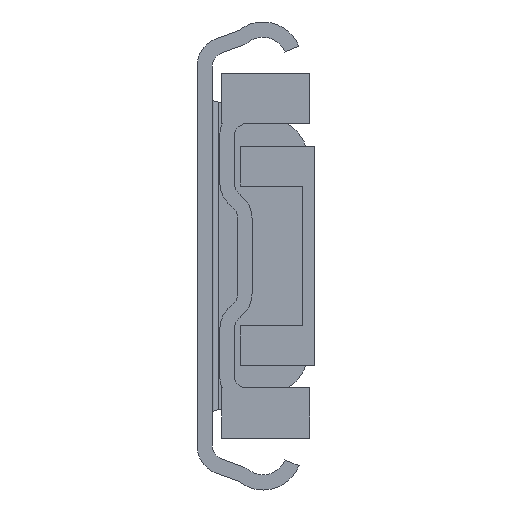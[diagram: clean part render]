
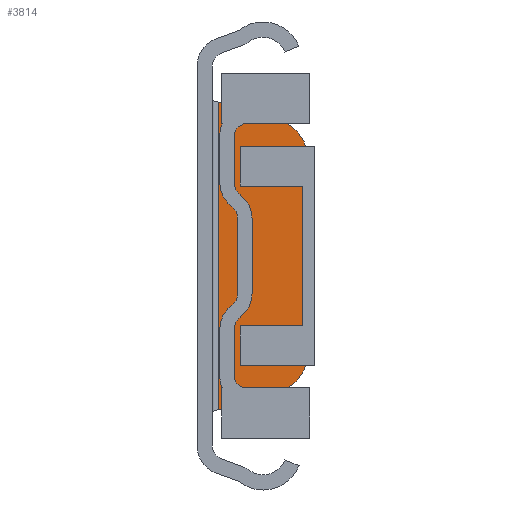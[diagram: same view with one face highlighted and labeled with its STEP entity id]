
A CAD part, front view. The second image highlights one B-rep face of the part: STEP entity #3814.
In plain terms, the highlighted planar face has unit normal (0, -1, 0).
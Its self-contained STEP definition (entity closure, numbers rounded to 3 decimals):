
#337=LINE('',#6547,#720);
#338=LINE('',#6552,#721);
#339=LINE('',#6556,#722);
#340=LINE('',#6558,#723);
#720=VECTOR('',#5419,1000.);
#721=VECTOR('',#5422,1000.);
#722=VECTOR('',#5425,1000.);
#723=VECTOR('',#5426,1000.);
#887=PLANE('',#4506);
#1731=ORIENTED_EDGE('',*,*,#2427,.F.);
#1732=ORIENTED_EDGE('',*,*,#2428,.F.);
#1733=ORIENTED_EDGE('',*,*,#2429,.F.);
#1734=ORIENTED_EDGE('',*,*,#2430,.F.);
#1735=ORIENTED_EDGE('',*,*,#2431,.F.);
#1736=ORIENTED_EDGE('',*,*,#2432,.F.);
#2427=EDGE_CURVE('',#2848,#2849,#337,.T.);
#2428=EDGE_CURVE('',#2850,#2848,#3060,.F.);
#2429=EDGE_CURVE('',#2851,#2850,#338,.T.);
#2430=EDGE_CURVE('',#2852,#2851,#3061,.F.);
#2431=EDGE_CURVE('',#2853,#2852,#339,.T.);
#2432=EDGE_CURVE('',#2849,#2853,#340,.T.);
#2848=VERTEX_POINT('',#6548);
#2849=VERTEX_POINT('',#6549);
#2850=VERTEX_POINT('',#6551);
#2851=VERTEX_POINT('',#6553);
#2852=VERTEX_POINT('',#6555);
#2853=VERTEX_POINT('',#6557);
#3060=CIRCLE('',#4507,8.);
#3061=CIRCLE('',#4508,8.);
#3283=EDGE_LOOP('',(#1731,#1732,#1733,#1734,#1735,#1736));
#3524=FACE_BOUND('',#3283,.T.);
#3814=ADVANCED_FACE('',(#3524),#887,.T.);
#4506=AXIS2_PLACEMENT_3D('',#6546,#5417,#5418);
#4507=AXIS2_PLACEMENT_3D('',#6550,#5420,#5421);
#4508=AXIS2_PLACEMENT_3D('',#6554,#5423,#5424);
#5417=DIRECTION('',(0.,-1.,0.));
#5418=DIRECTION('',(0.,0.,-1.));
#5419=DIRECTION('',(-0.966,0.,-0.259));
#5420=DIRECTION('',(0.,-1.,0.));
#5421=DIRECTION('',(0.,0.,-1.));
#5422=DIRECTION('',(0.,0.,-1.));
#5423=DIRECTION('',(0.,-1.,0.));
#5424=DIRECTION('',(0.,0.,-1.));
#5425=DIRECTION('',(0.966,0.,-0.259));
#5426=DIRECTION('',(0.,0.,1.));
#6546=CARTESIAN_POINT('',(12.9,505.5,14.965));
#6547=CARTESIAN_POINT('',(22.316,505.5,-20.174));
#6548=CARTESIAN_POINT('',(12.471,505.5,-22.812));
#6549=CARTESIAN_POINT('',(3.5,505.5,-25.216));
#6550=CARTESIAN_POINT('',(10.4,505.5,-15.085));
#6551=CARTESIAN_POINT('',(18.4,505.5,-15.085));
#6552=CARTESIAN_POINT('',(18.4,505.5,14.965));
#6553=CARTESIAN_POINT('',(18.4,505.5,15.085));
#6554=CARTESIAN_POINT('',(10.4,505.5,15.085));
#6555=CARTESIAN_POINT('',(12.471,505.5,22.812));
#6556=CARTESIAN_POINT('',(14.833,505.5,22.179));
#6557=CARTESIAN_POINT('',(3.5,505.5,25.216));
#6558=CARTESIAN_POINT('',(3.5,505.5,-25.766));
